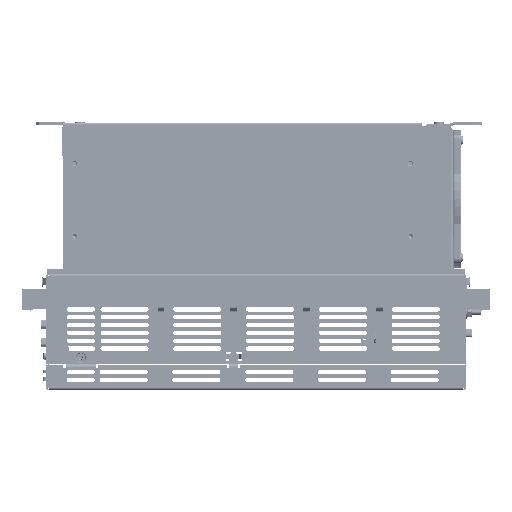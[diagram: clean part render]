
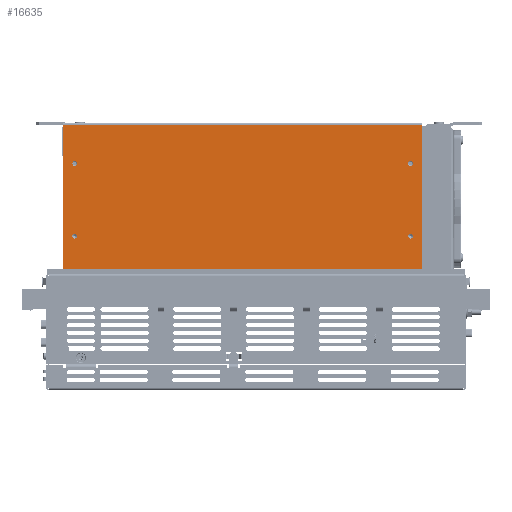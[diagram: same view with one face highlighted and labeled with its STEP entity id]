
A CAD part, left-side view. The second image highlights one B-rep face of the part: STEP entity #16635.
In plain terms, the highlighted planar face has unit normal (-1, 0, 0).
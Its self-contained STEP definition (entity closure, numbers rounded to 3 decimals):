
#116 = CARTESIAN_POINT ( 'NONE',  ( -70., 160., 64.1 ) ) ;
#3005 = AXIS2_PLACEMENT_3D ( 'NONE', #234223, #121269, #8336 ) ;
#6957 = AXIS2_PLACEMENT_3D ( 'NONE', #70357, #202389, #89250 ) ;
#6999 = LINE ( 'NONE', #116, #207667 ) ;
#7246 = CARTESIAN_POINT ( 'NONE',  ( -70., -150., -35.48 ) ) ;
#8336 = DIRECTION ( 'NONE',  ( 0., 0., 1. ) ) ;
#10446 = DIRECTION ( 'NONE',  ( 0., -1., 0. ) ) ;
#11589 = DIRECTION ( 'NONE',  ( 1., 0., 0. ) ) ;
#15126 = CARTESIAN_POINT ( 'NONE',  ( -70., -150., -37.547 ) ) ;
#16379 = CIRCLE ( 'NONE', #186196, 2.067 ) ;
#16635 = ADVANCED_FACE ( 'NONE', ( #214605, #164451, #170360, #114231, #19906 ), #237438, .F. ) ;
#19906 = FACE_OUTER_BOUND ( 'NONE', #153500, .T. ) ;
#23615 = EDGE_CURVE ( 'NONE', #184236, #144250, #233253, .T. ) ;
#26222 = DIRECTION ( 'NONE',  ( 0., 0., 1. ) ) ;
#27465 = EDGE_LOOP ( 'NONE', ( #101432, #29007 ) ) ;
#29007 = ORIENTED_EDGE ( 'NONE', *, *, #77518, .T. ) ;
#30893 = CARTESIAN_POINT ( 'NONE',  ( -70., -160., 64.1 ) ) ;
#34984 = EDGE_CURVE ( 'NONE', #220913, #134676, #190970, .T. ) ;
#37912 = CARTESIAN_POINT ( 'NONE',  ( -70., -150., 31.587 ) ) ;
#43396 = AXIS2_PLACEMENT_3D ( 'NONE', #167492, #54438, #186460 ) ;
#44855 = CARTESIAN_POINT ( 'NONE',  ( -70., -160., 64.1 ) ) ;
#50144 = CARTESIAN_POINT ( 'NONE',  ( -70., 150., -35.48 ) ) ;
#54438 = DIRECTION ( 'NONE',  ( 1., 0., 0. ) ) ;
#58411 = VECTOR ( 'NONE', #162862, 1000. ) ;
#64015 = ORIENTED_EDGE ( 'NONE', *, *, #231202, .F. ) ;
#64313 = LINE ( 'NONE', #30893, #58411 ) ;
#69092 = DIRECTION ( 'NONE',  ( 0., 0., 1. ) ) ;
#70357 = CARTESIAN_POINT ( 'NONE',  ( -70., -150., -35.48 ) ) ;
#72852 = CARTESIAN_POINT ( 'NONE',  ( -70., -150., 29.52 ) ) ;
#74549 = EDGE_CURVE ( 'NONE', #243367, #91216, #64313, .T. ) ;
#75347 = VERTEX_POINT ( 'NONE', #167417 ) ;
#75839 = CIRCLE ( 'NONE', #3005, 2.067 ) ;
#77518 = EDGE_CURVE ( 'NONE', #158126, #211303, #224077, .T. ) ;
#80133 = CARTESIAN_POINT ( 'NONE',  ( -70., 150., -33.413 ) ) ;
#82669 = VECTOR ( 'NONE', #10446, 1000. ) ;
#85518 = EDGE_CURVE ( 'NONE', #86378, #75347, #155619, .T. ) ;
#85639 = CARTESIAN_POINT ( 'NONE',  ( -70., 150., 29.52 ) ) ;
#86378 = VERTEX_POINT ( 'NONE', #80133 ) ;
#87627 = EDGE_LOOP ( 'NONE', ( #104710, #172541 ) ) ;
#87956 = ORIENTED_EDGE ( 'NONE', *, *, #183485, .T. ) ;
#89250 = DIRECTION ( 'NONE',  ( 0., 0., 1. ) ) ;
#91216 = VERTEX_POINT ( 'NONE', #103768 ) ;
#91580 = VERTEX_POINT ( 'NONE', #131733 ) ;
#91743 = DIRECTION ( 'NONE',  ( 0., 0., 1. ) ) ;
#92876 = EDGE_LOOP ( 'NONE', ( #122460, #110520 ) ) ;
#95260 = VERTEX_POINT ( 'NONE', #37912 ) ;
#99174 = DIRECTION ( 'NONE',  ( 1., 0., 0. ) ) ;
#101432 = ORIENTED_EDGE ( 'NONE', *, *, #123962, .T. ) ;
#103327 = AXIS2_PLACEMENT_3D ( 'NONE', #212313, #99174, #231165 ) ;
#103768 = CARTESIAN_POINT ( 'NONE',  ( -70., 160., 64.1 ) ) ;
#104637 = DIRECTION ( 'NONE',  ( 0., 0., 1. ) ) ;
#104710 = ORIENTED_EDGE ( 'NONE', *, *, #34984, .T. ) ;
#105481 = CARTESIAN_POINT ( 'NONE',  ( -70., -160., 64.1 ) ) ;
#108186 = ORIENTED_EDGE ( 'NONE', *, *, #23615, .T. ) ;
#110520 = ORIENTED_EDGE ( 'NONE', *, *, #222538, .T. ) ;
#114101 = ORIENTED_EDGE ( 'NONE', *, *, #153877, .T. ) ;
#114231 = FACE_BOUND ( 'NONE', #92876, .T. ) ;
#118943 = ORIENTED_EDGE ( 'NONE', *, *, #85518, .T. ) ;
#119922 = DIRECTION ( 'NONE',  ( 0., 0., -1. ) ) ;
#121269 = DIRECTION ( 'NONE',  ( 1., 0., 0. ) ) ;
#122460 = ORIENTED_EDGE ( 'NONE', *, *, #229024, .T. ) ;
#123962 = EDGE_CURVE ( 'NONE', #211303, #158126, #161211, .T. ) ;
#126105 = AXIS2_PLACEMENT_3D ( 'NONE', #7246, #139157, #26222 ) ;
#130151 = LINE ( 'NONE', #44855, #174445 ) ;
#131733 = CARTESIAN_POINT ( 'NONE',  ( -70., -150., 27.453 ) ) ;
#134676 = VERTEX_POINT ( 'NONE', #162980 ) ;
#135314 = CARTESIAN_POINT ( 'NONE',  ( -70., 150., 31.587 ) ) ;
#139157 = DIRECTION ( 'NONE',  ( 1., 0., 0. ) ) ;
#143466 = DIRECTION ( 'NONE',  ( 0., 0., -1. ) ) ;
#144250 = VERTEX_POINT ( 'NONE', #231124 ) ;
#150976 = DIRECTION ( 'NONE',  ( 0., 0., -1. ) ) ;
#153500 = EDGE_LOOP ( 'NONE', ( #114101, #108186, #64015, #157889 ) ) ;
#153877 = EDGE_CURVE ( 'NONE', #91216, #184236, #6999, .T. ) ;
#154109 = AXIS2_PLACEMENT_3D ( 'NONE', #85639, #217757, #104637 ) ;
#155619 = CIRCLE ( 'NONE', #224209, 2.067 ) ;
#157889 = ORIENTED_EDGE ( 'NONE', *, *, #74549, .T. ) ;
#158126 = VERTEX_POINT ( 'NONE', #15126 ) ;
#161211 = CIRCLE ( 'NONE', #126105, 2.067 ) ;
#162862 = DIRECTION ( 'NONE',  ( 0., 1., 0. ) ) ;
#162980 = CARTESIAN_POINT ( 'NONE',  ( -70., 150., 27.453 ) ) ;
#164451 = FACE_BOUND ( 'NONE', #239219, .T. ) ;
#167417 = CARTESIAN_POINT ( 'NONE',  ( -70., 150., -37.547 ) ) ;
#167492 = CARTESIAN_POINT ( 'NONE',  ( -70., 150., 29.52 ) ) ;
#170360 = FACE_BOUND ( 'NONE', #27465, .T. ) ;
#172541 = ORIENTED_EDGE ( 'NONE', *, *, #212906, .T. ) ;
#174445 = VECTOR ( 'NONE', #119922, 1000. ) ;
#182110 = DIRECTION ( 'NONE',  ( 1., 0., 0. ) ) ;
#183485 = EDGE_CURVE ( 'NONE', #75347, #86378, #193621, .T. ) ;
#184236 = VERTEX_POINT ( 'NONE', #217665 ) ;
#186196 = AXIS2_PLACEMENT_3D ( 'NONE', #72852, #204915, #91743 ) ;
#186460 = DIRECTION ( 'NONE',  ( 0., 0., 1. ) ) ;
#190970 = CIRCLE ( 'NONE', #154109, 2.067 ) ;
#193621 = CIRCLE ( 'NONE', #103327, 2.067 ) ;
#202389 = DIRECTION ( 'NONE',  ( 1., 0., 0. ) ) ;
#204915 = DIRECTION ( 'NONE',  ( 1., 0., 0. ) ) ;
#207667 = VECTOR ( 'NONE', #150976, 1000. ) ;
#209923 = CIRCLE ( 'NONE', #43396, 2.067 ) ;
#210697 = CARTESIAN_POINT ( 'NONE',  ( -70., -160., 64.1 ) ) ;
#211303 = VERTEX_POINT ( 'NONE', #225172 ) ;
#212313 = CARTESIAN_POINT ( 'NONE',  ( -70., 150., -35.48 ) ) ;
#212906 = EDGE_CURVE ( 'NONE', #134676, #220913, #209923, .T. ) ;
#214605 = FACE_BOUND ( 'NONE', #87627, .T. ) ;
#217422 = CARTESIAN_POINT ( 'NONE',  ( -70., -160., -65.48 ) ) ;
#217665 = CARTESIAN_POINT ( 'NONE',  ( -70., 160., -65.48 ) ) ;
#217757 = DIRECTION ( 'NONE',  ( 1., 0., 0. ) ) ;
#220496 = AXIS2_PLACEMENT_3D ( 'NONE', #105481, #11589, #143466 ) ;
#220913 = VERTEX_POINT ( 'NONE', #135314 ) ;
#222538 = EDGE_CURVE ( 'NONE', #91580, #95260, #75839, .T. ) ;
#224077 = CIRCLE ( 'NONE', #6957, 2.067 ) ;
#224209 = AXIS2_PLACEMENT_3D ( 'NONE', #50144, #182110, #69092 ) ;
#225172 = CARTESIAN_POINT ( 'NONE',  ( -70., -150., -33.413 ) ) ;
#229024 = EDGE_CURVE ( 'NONE', #95260, #91580, #16379, .T. ) ;
#231124 = CARTESIAN_POINT ( 'NONE',  ( -70., -160., -65.48 ) ) ;
#231165 = DIRECTION ( 'NONE',  ( 0., 0., 1. ) ) ;
#231202 = EDGE_CURVE ( 'NONE', #243367, #144250, #130151, .T. ) ;
#233253 = LINE ( 'NONE', #217422, #82669 ) ;
#234223 = CARTESIAN_POINT ( 'NONE',  ( -70., -150., 29.52 ) ) ;
#237438 = PLANE ( 'NONE',  #220496 ) ;
#239219 = EDGE_LOOP ( 'NONE', ( #118943, #87956 ) ) ;
#243367 = VERTEX_POINT ( 'NONE', #210697 ) ;
